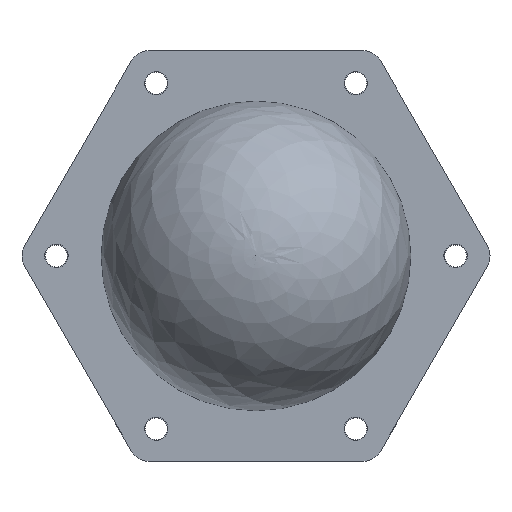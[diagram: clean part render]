
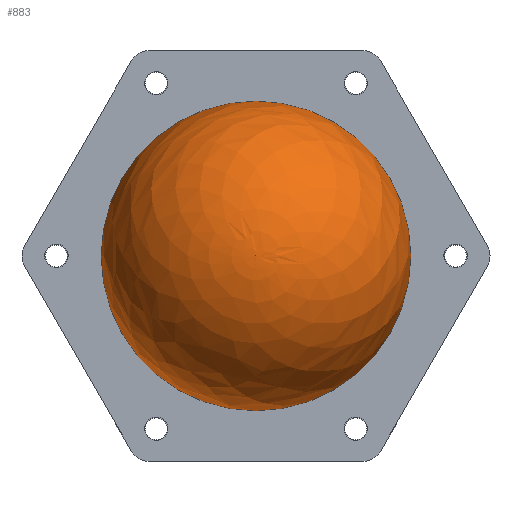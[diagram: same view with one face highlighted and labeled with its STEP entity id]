
A CAD part, top view. The second image highlights one B-rep face of the part: STEP entity #883.
In plain terms, the highlighted face is a revolution surface.
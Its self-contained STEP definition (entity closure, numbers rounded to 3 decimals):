
#180 = EDGE_CURVE('',#181,#181,#183,.T.);
#181 = VERTEX_POINT('',#182);
#182 = CARTESIAN_POINT('',(-11.25,-19.486,4.6));
#183 = CIRCLE('',#184,22.5);
#184 = AXIS2_PLACEMENT_3D('',#185,#186,#187);
#185 = CARTESIAN_POINT('',(0.,0.,4.6));
#186 = DIRECTION('',(0.,0.,1.));
#187 = DIRECTION('',(-0.5,-0.866,0.));
#883 = ADVANCED_FACE('',(#884),#897,.T.);
#884 = FACE_BOUND('',#885,.T.);
#885 = EDGE_LOOP('',(#886,#887,#896));
#886 = ORIENTED_EDGE('',*,*,#180,.T.);
#887 = ORIENTED_EDGE('',*,*,#888,.T.);
#888 = EDGE_CURVE('',#181,#889,#891,.T.);
#889 = VERTEX_POINT('',#890);
#890 = CARTESIAN_POINT('',(0.,0.,28.8));
#891 = B_SPLINE_CURVE_WITH_KNOTS('',3,(#892,#893,#894,#895),
  .UNSPECIFIED.,.F.,.F.,(4,4),(0.,1.),.PIECEWISE_BEZIER_KNOTS.);
#892 = CARTESIAN_POINT('',(-11.25,-19.486,4.6));
#893 = CARTESIAN_POINT('',(-11.25,-19.486,18.55));
#894 = CARTESIAN_POINT('',(-6.25,-10.825,28.8));
#895 = CARTESIAN_POINT('',(0.,0.,28.8));
#896 = ORIENTED_EDGE('',*,*,#888,.F.);
#897 = SURFACE_OF_REVOLUTION('',#898,#903);
#898 = B_SPLINE_CURVE_WITH_KNOTS('',3,(#899,#900,#901,#902),
  .UNSPECIFIED.,.F.,.F.,(4,4),(0.,1.),.PIECEWISE_BEZIER_KNOTS.);
#899 = CARTESIAN_POINT('',(-11.25,-19.486,4.6));
#900 = CARTESIAN_POINT('',(-11.25,-19.486,18.55));
#901 = CARTESIAN_POINT('',(-6.25,-10.825,28.8));
#902 = CARTESIAN_POINT('',(0.,0.,28.8));
#903 = AXIS1_PLACEMENT('',#904,#905);
#904 = CARTESIAN_POINT('',(0.,0.,1.8));
#905 = DIRECTION('',(0.,0.,1.));
